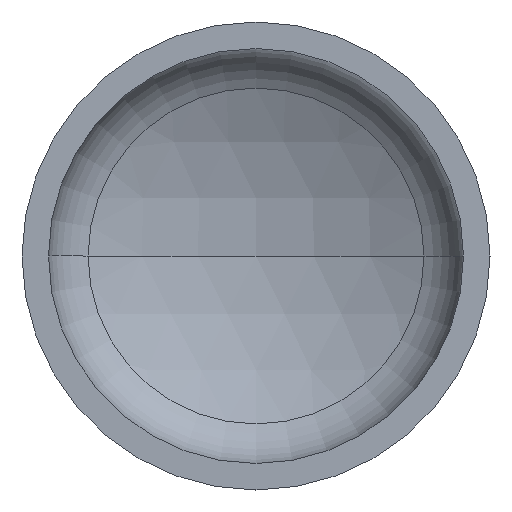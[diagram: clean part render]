
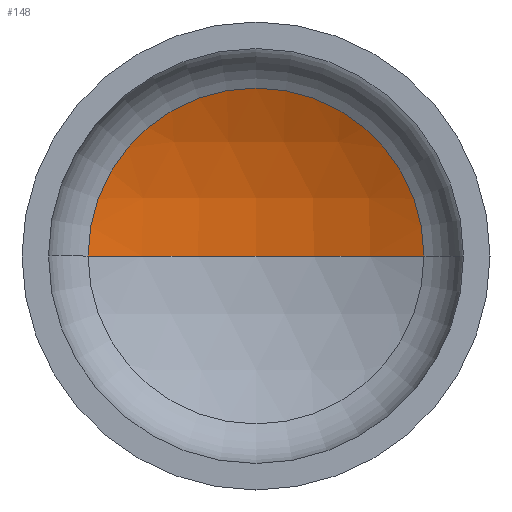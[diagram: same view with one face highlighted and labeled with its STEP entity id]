
A CAD part, front view. The second image highlights one B-rep face of the part: STEP entity #148.
In plain terms, the highlighted spherical face has radius 480 mm.
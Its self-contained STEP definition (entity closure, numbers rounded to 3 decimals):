
#16 = EDGE_LOOP ( 'NONE', ( #42, #219, #92 ) ) ;
#39 = CIRCLE ( 'NONE', #102, 480. ) ;
#42 = ORIENTED_EDGE ( 'NONE', *, *, #180, .F. ) ;
#48 = VERTEX_POINT ( 'NONE', #297 ) ;
#76 = VERTEX_POINT ( 'NONE', #252 ) ;
#92 = ORIENTED_EDGE ( 'NONE', *, *, #176, .T. ) ;
#101 = AXIS2_PLACEMENT_3D ( 'NONE', #259, #286, #285 ) ;
#102 = AXIS2_PLACEMENT_3D ( 'NONE', #232, #229, #230 ) ;
#107 = AXIS2_PLACEMENT_3D ( 'NONE', #189, #355, #191 ) ;
#139 = AXIS2_PLACEMENT_3D ( 'NONE', #318, #321, #198 ) ;
#144 = VERTEX_POINT ( 'NONE', #325 ) ;
#148 = ADVANCED_FACE ( 'NONE', ( #211 ), #389, .F. ) ;
#176 = EDGE_CURVE ( 'NONE', #48, #76, #186, .T. ) ;
#177 = EDGE_CURVE ( 'NONE', #144, #48, #39, .T. ) ;
#180 = EDGE_CURVE ( 'NONE', #144, #76, #309, .T. ) ;
#186 = CIRCLE ( 'NONE', #107, 215.258 ) ;
#189 = CARTESIAN_POINT ( 'NONE',  ( 0., 192.23, 0. ) ) ;
#191 = DIRECTION ( 'NONE',  ( 1., 0., 0. ) ) ;
#198 = DIRECTION ( 'NONE',  ( -1., 0., 0. ) ) ;
#211 = FACE_OUTER_BOUND ( 'NONE', #16, .T. ) ;
#219 = ORIENTED_EDGE ( 'NONE', *, *, #177, .T. ) ;
#229 = DIRECTION ( 'NONE',  ( 0., 0., -1. ) ) ;
#230 = DIRECTION ( 'NONE',  ( -1., 0., 0. ) ) ;
#232 = CARTESIAN_POINT ( 'NONE',  ( 0., -236.797, 0. ) ) ;
#252 = CARTESIAN_POINT ( 'NONE',  ( -215.258, 192.23, 0. ) ) ;
#259 = CARTESIAN_POINT ( 'NONE',  ( 0., -236.797, 0. ) ) ;
#285 = DIRECTION ( 'NONE',  ( 1., 0., 0. ) ) ;
#286 = DIRECTION ( 'NONE',  ( 0., 0., 1. ) ) ;
#297 = CARTESIAN_POINT ( 'NONE',  ( 215.258, 192.23, 0. ) ) ;
#309 = CIRCLE ( 'NONE', #101, 480. ) ;
#318 = CARTESIAN_POINT ( 'NONE',  ( 0., -236.797, 0. ) ) ;
#321 = DIRECTION ( 'NONE',  ( 0., 0., -1. ) ) ;
#325 = CARTESIAN_POINT ( 'NONE',  ( 0., 243.203, 0. ) ) ;
#355 = DIRECTION ( 'NONE',  ( 0., -1., 0. ) ) ;
#389 = SPHERICAL_SURFACE ( 'NONE', #139, 480. ) ;
